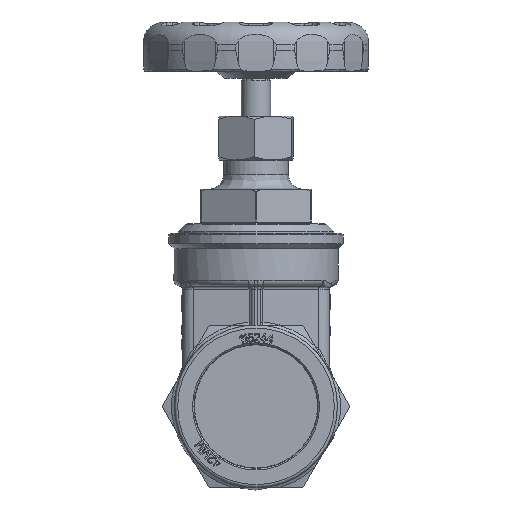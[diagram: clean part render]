
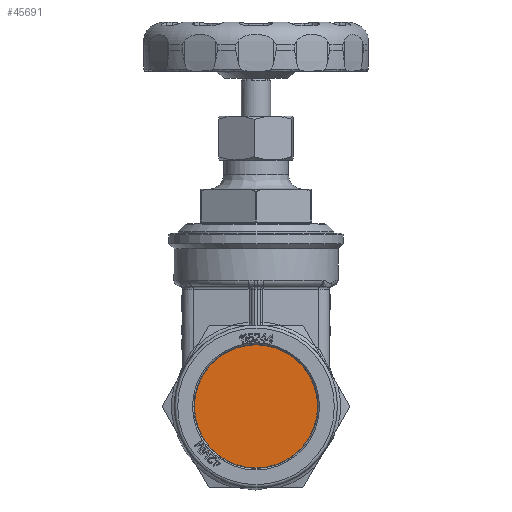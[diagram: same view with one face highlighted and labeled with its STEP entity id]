
A CAD part, left-side view. The second image highlights one B-rep face of the part: STEP entity #45691.
In plain terms, the highlighted planar face has unit normal (-1, 0, 0).
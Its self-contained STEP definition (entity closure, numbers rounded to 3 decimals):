
#45668=CARTESIAN_POINT('',(15.395,-21.,0.0));
#45669=VERTEX_POINT('',#45668);
#45670=CARTESIAN_POINT('',(15.395,0.,0.0));
#45671=DIRECTION('',(-1.0,0.0,0.0));
#45672=DIRECTION('',(0.0,-1.0,0.0));
#45673=AXIS2_PLACEMENT_3D('',#45670,#45671,#45672);
#45674=CIRCLE('',#45673,21.);
#45675=EDGE_CURVE('',#45669,#45669,#45674,.T.);
#45683=CARTESIAN_POINT('',(15.395,-10.5,0.0));
#45684=DIRECTION('',(-1.0,0.0,0.0));
#45685=DIRECTION('',(0.0,0.0,1.0));
#45686=AXIS2_PLACEMENT_3D('',#45683,#45684,#45685);
#45687=PLANE('',#45686);
#45688=ORIENTED_EDGE('',*,*,#45675,.T.);
#45689=EDGE_LOOP('',(#45688));
#45690=FACE_OUTER_BOUND('',#45689,.T.);
#45691=ADVANCED_FACE('',(#45690),#45687,.T.);
